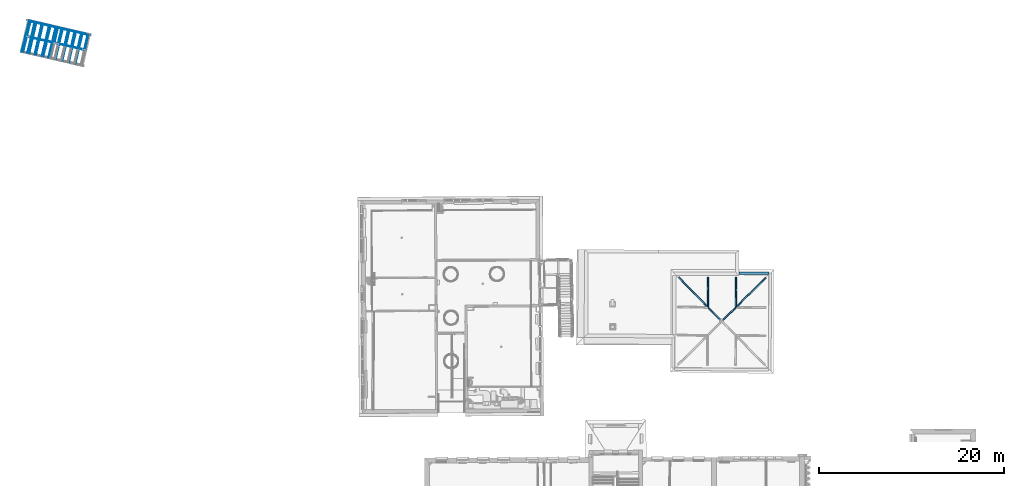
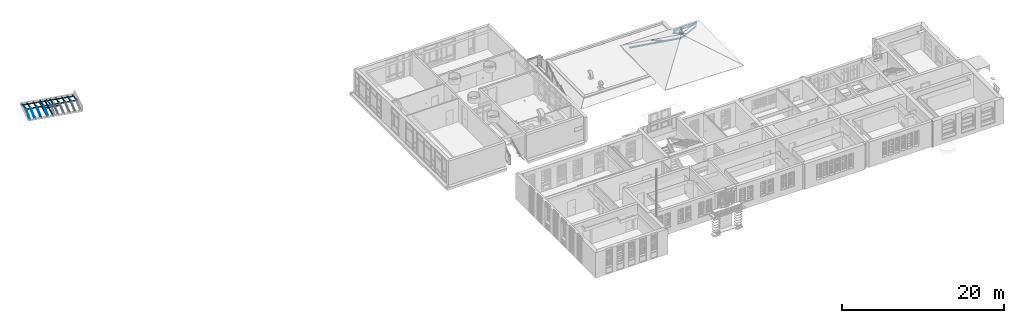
# One storey, part 6 of 158: 32 beams.
"""IFC2X3 building model written with IfcOpenShell, lengths in metres."""

from ifc_helpers import new_model, entity, si_unit, converted_unit, derived_unit, money_unit, direction, frame, frame_2d, origin_with_axes, place, context, subcontext, project, spatial, polyline, rectangle, outline, extrude, clip, halfspace, material, type_object, element, save


model = new_model("IFC2X3")

# Units and contexts
model_context = context("Model", 3, precision=1e-05, world=origin_with_axes(), true_north=direction((0.0, 1.0)))
body_context = subcontext(model_context, "Body", "Model", "MODEL_VIEW")
ifc_project = project(units=[si_unit("LENGTHUNIT", "METRE"), si_unit("AREAUNIT", "SQUARE_METRE"), si_unit("VOLUMEUNIT", "CUBIC_METRE"), converted_unit("PLANEANGLEUNIT", "DEGREE", entity("IfcPlaneAngleMeasure", 0.0174532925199), si_unit("PLANEANGLEUNIT", "RADIAN"), dimensions=[0, 0, 0, 0, 0, 0, 0]), money_unit("EUR"), converted_unit("TIMEUNIT", "Year", entity("IfcTimeMeasure", 31556926.0), si_unit("TIMEUNIT", "SECOND"), dimensions=[0, 0, 1, 0, 0, 0, 0]), si_unit("MASSUNIT", "GRAM", prefix="KILO"), si_unit("THERMODYNAMICTEMPERATUREUNIT", "DEGREE_CELSIUS"), si_unit("LUMINOUSINTENSITYUNIT", "LUMEN"), si_unit("ENERGYUNIT", "JOULE", prefix="MEGA"), derived_unit("THERMALCONDUCTANCEUNIT", [(si_unit("POWERUNIT", "WATT"), 1), (si_unit("LENGTHUNIT", "METRE"), -1), (si_unit("THERMODYNAMICTEMPERATUREUNIT", "KELVIN"), -1)]), derived_unit("SPECIFICHEATCAPACITYUNIT", [(si_unit("ENERGYUNIT", "JOULE"), 1), (si_unit("MASSUNIT", "GRAM", prefix="KILO"), -1), (si_unit("THERMODYNAMICTEMPERATUREUNIT", "KELVIN"), -1)]), derived_unit("MASSDENSITYUNIT", [(si_unit("MASSUNIT", "GRAM", prefix="KILO"), 1), (si_unit("VOLUMEUNIT", "CUBIC_METRE"), -1)])], contexts=[model_context])

# Site, building, storey
site_placement = place(None, origin_with_axes())
site = spatial("IfcSite", under=ifc_project, at=site_placement, Name="Gelände", CompositionType="ELEMENT")
building_placement = place(site_placement, origin_with_axes())
building = spatial("IfcBuilding", under=site, at=building_placement, Name="Gebäude", CompositionType="ELEMENT")
storey_placement = place(building_placement, origin_with_axes())
storey = spatial("IfcBuildingStorey", under=building, at=storey_placement, Name="ERDGESCHOSS", CompositionType="ELEMENT", Elevation=0.0)

# Beams
ifc_material_1 = material(Name="47_Holz, Bauholz")
beam_type_1 = type_object("IfcBeamType", Name="47_Holz, Bauholz 154 x 160", PredefinedType="LINTEL")
beam_1_placement = place(storey_placement, frame((-0.608152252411, 45.5321719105, 1.04301379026), z_axis=(0.0, 0.0, 1.0), x_axis=(-0.713262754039, -0.700896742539, 0.0)))
element("IfcBeam", 1, at=beam_1_placement, inside=storey, type_object=beam_type_1, material=ifc_material_1, Name="Unterzug-006", ObjectType="LINTEL", context=body_context, shape_type="Clipping", body=[
    clip(clip(extrude(rectangle(XDim=0.16039239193, YDim=0.154044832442, at=frame_2d((-0.0801961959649, -0.0770224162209), x_axis=(1.0, 0.0))), frame((0.0, -0.0855337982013, -0.0348242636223), z_axis=(0.0, 0.926178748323, 0.377084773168), x_axis=(0.0, -0.377084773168, 0.926178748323)), (0.0, 0.0, 1.0), 7.36415548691), halfspace(frame((0.0, 0.0, 0.0), z_axis=(0.0, 1.0, 0.0), x_axis=(0.0, 0.0, 1.0)), True)), halfspace(frame((0.0, 6.64945671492, 0.0), z_axis=(0.0, -1.0, 0.0), x_axis=(0.0, 0.0, -1.0)), True)),
])
beam_2_placement = place(storey_placement, frame((2.56071614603, 45.6105397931, 1.06555518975), z_axis=(0.0, 0.0, 1.0), x_axis=(-0.999964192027, 0.00846254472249, 0.0)))
element("IfcBeam", 2, at=beam_2_placement, inside=storey, type_object=beam_type_1, material=ifc_material_1, Name="Unterzug-007", ObjectType="LINTEL", context=body_context, shape_type="Clipping", body=[
    clip(clip(extrude(rectangle(XDim=0.16039239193, YDim=0.154044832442, at=frame_2d((-0.0801961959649, -0.0770224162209), x_axis=(1.0, 0.0))), frame((0.0, -0.112227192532, -0.0638946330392), z_axis=(0.0, 0.869026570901, 0.494765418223), x_axis=(0.0, -0.494765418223, 0.869026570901)), (0.0, 0.0, 1.0), 3.95708632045), halfspace(frame((0.0, 0.0, 0.0), z_axis=(0.0, 1.0, 0.0), x_axis=(0.0, 0.0, 1.0)), True)), halfspace(frame((0.0, 3.21435877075, 0.0), z_axis=(0.0, -1.0, 0.0), x_axis=(0.0, 0.0, -1.0)), True)),
])
beam_3_placement = place(storey_placement, frame((5.60980311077, 45.5847358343, 1.0665890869), z_axis=(0.0, 0.0, 1.0), x_axis=(-0.999944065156, 0.0105766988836, 0.0)))
element("IfcBeam", 3, at=beam_3_placement, inside=storey, type_object=beam_type_1, material=ifc_material_1, Name="Unterzug-008", ObjectType="LINTEL", context=body_context, shape_type="Clipping", body=[
    clip(clip(extrude(rectangle(XDim=0.16039239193, YDim=0.154044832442, at=frame_2d((-0.0801961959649, -0.0770224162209), x_axis=(1.0, 0.0))), frame((0.0, -0.112689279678, -0.0645082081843), z_axis=(0.0, 0.867863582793, 0.496802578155), x_axis=(0.0, -0.496802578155, 0.867863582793)), (0.0, 0.0, 1.0), 3.95729337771), halfspace(frame((0.0, 0.0, 0.0), z_axis=(0.0, 1.0, 0.0), x_axis=(0.0, 0.0, 1.0)), True)), halfspace(frame((0.0, 3.20901224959, 0.0), z_axis=(0.0, -1.0, 0.0), x_axis=(0.0, 0.0, -1.0)), True)),
])
beam_4_placement = place(storey_placement, frame((8.84745095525, 45.5748668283, 1.04186025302), z_axis=(0.0, 0.0, 1.0), x_axis=(-0.699126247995, 0.714998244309, 0.0)))
element("IfcBeam", 4, at=beam_4_placement, inside=storey, type_object=beam_type_1, material=ifc_material_1, Name="Unterzug-009", ObjectType="LINTEL", context=body_context, shape_type="Clipping", body=[
    clip(clip(extrude(rectangle(XDim=0.16039239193, YDim=0.154044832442, at=frame_2d((-0.0801961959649, -0.0770224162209), x_axis=(1.0, 0.0))), frame((0.0, -0.0853930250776, -0.0347002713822), z_axis=(0.0, 0.926431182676, 0.376464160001), x_axis=(0.0, -0.376464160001, 0.926431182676)), (0.0, 0.0, 1.0), 7.41739935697), halfspace(frame((0.0, 0.0, 0.0), z_axis=(0.0, 1.0, 0.0), x_axis=(0.0, 0.0, 1.0)), True)), halfspace(frame((0.0, 6.70092400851, 0.0), z_axis=(0.0, -1.0, 0.0), x_axis=(0.0, 0.0, -1.0)), True)),
])
ifc_material_2 = material(Name="05_ALLGEMEIN - TRAGENDE BAUTEILE")
beam_type_2 = type_object("IfcBeamType", Name="sims kantine 289 x 434", PredefinedType="LINTEL")
beam_5_placement = place(storey_placement, frame((9.2329401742, 45.8853873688, 0.825955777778), z_axis=(0.0, 0.0, 1.0), x_axis=(0.00563238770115, 0.999984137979, 0.0)))
element("IfcBeam", 5, at=beam_5_placement, inside=storey, type_object=beam_type_2, material=ifc_material_2, Name="Unterzug-007", ObjectType="LINTEL", context=body_context, shape_type="SweptSolid", body=[
    extrude(outline(polyline([(0.0, 0.434190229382), (0.0, 0.0), (0.26806092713, 0.0), (0.271404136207, 0.111285), (0.288909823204, 0.116581), (0.288149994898, 0.268944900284), (0.0, 0.434190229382)])), frame((0.0, 3.24758471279, 0.0), z_axis=(0.0, -1.0, 0.0), x_axis=(1.0, 0.0, 0.0)), (0.0, 0.0, 1.0), 3.24758471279),
])
beam_type_3 = type_object("IfcBeamType", Name="05_ALLGEMEIN - TRAGENDE BAUTEILE 100 x 120", PredefinedType="LINTEL")
beam_6_placement = place(storey_placement, frame((-68.7324379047, 69.4019596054, 0.170942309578), z_axis=(0.0, 0.0, 1.0), x_axis=(0.972435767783, -0.233170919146, 0.0)))
element("IfcBeam", 6, at=beam_6_placement, inside=storey, type_object=beam_type_3, material=ifc_material_2, Name="Unterzug-063", ObjectType="LINTEL", context=body_context, shape_type="Clipping", body=[
    clip(clip(extrude(rectangle(XDim=0.12, YDim=0.1, at=frame_2d((0.06, -0.05), x_axis=(1.0, 0.0))), frame((0.0, -7.56448263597e-05, 3.37180352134e-08), z_axis=(0.0, 0.999999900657, -0.000445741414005), x_axis=(0.0, 0.000445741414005, 0.999999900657)), (0.0, 0.0, 1.0), 3.40100529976), halfspace(frame((0.0, 0.0, 0.0), z_axis=(0.0, 1.0, 0.0), x_axis=(0.0, 0.0, 1.0)), True)), halfspace(frame((0.0, 3.40085367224, 0.0), z_axis=(0.0, -1.0, 0.0), x_axis=(0.0, 0.0, -1.0)), True)),
])
beam_7_placement = place(storey_placement, frame((-71.5331485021, 70.0352945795, 0.179977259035), z_axis=(0.0, 0.0, 1.0), x_axis=(0.972545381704, -0.232713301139, 0.0)))
element("IfcBeam", 7, at=beam_7_placement, inside=storey, type_object=beam_type_3, material=ifc_material_2, Name="Unterzug-063", ObjectType="LINTEL", context=body_context, shape_type="Clipping", body=[
    clip(clip(extrude(rectangle(XDim=0.12, YDim=0.1, at=frame_2d((0.06, -0.05), x_axis=(1.0, 0.0))), frame((0.0, -0.00121243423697, 8.66226015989e-06), z_axis=(0.0, 0.999974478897, -0.00714433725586), x_axis=(0.0, 0.00714433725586, 0.999974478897)), (0.0, 0.0, 1.0), 3.42242116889), halfspace(frame((0.0, 0.0, 0.0), z_axis=(0.0, 1.0, 0.0), x_axis=(0.0, 0.0, 1.0)), True)), halfspace(frame((0.0, 3.41990895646, 0.0), z_axis=(0.0, -1.0, 0.0), x_axis=(0.0, 0.0, -1.0)), True)),
])
beam_8_placement = place(storey_placement, frame((-68.6720060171, 72.8797282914, 0.165300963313), z_axis=(0.0, 0.0, 1.0), x_axis=(-0.973586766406, 0.228317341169, 0.0)))
element("IfcBeam", 8, at=beam_8_placement, inside=storey, type_object=beam_type_3, material=ifc_material_2, Name="Unterzug-064", ObjectType="LINTEL", context=body_context, shape_type="Clipping", body=[
    clip(clip(extrude(rectangle(XDim=0.12, YDim=0.1, at=frame_2d((0.06, 0.05), x_axis=(1.0, 0.0))), frame((0.0, -0.000584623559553, -2.01399764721e-06), z_axis=(0.0, 0.99999406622, 0.00344492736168), x_axis=(0.0, -0.00344492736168, 0.99999406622)), (0.0, 0.0, 1.0), 3.40801357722), halfspace(frame((0.0, 0.0, 0.0), z_axis=(0.0, 1.0, 0.0), x_axis=(0.0, 0.0, 1.0)), True)), halfspace(frame((0.0, 3.4068241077, 0.0), z_axis=(0.0, -1.0, 0.0), x_axis=(0.0, 0.0, -1.0)), True)),
])
beam_9_placement = place(storey_placement, frame((-67.9767236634, 72.6297140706, 0.165614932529), z_axis=(0.0, 0.0, 1.0), x_axis=(-0.973586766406, 0.228317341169, 0.0)))
element("IfcBeam", 9, at=beam_9_placement, inside=storey, type_object=beam_type_3, material=ifc_material_2, Name="Unterzug-064", ObjectType="LINTEL", context=body_context, shape_type="Clipping", body=[
    clip(clip(extrude(rectangle(XDim=0.12, YDim=0.1, at=frame_2d((0.06, 0.05), x_axis=(1.0, 0.0))), frame((0.0, -0.000584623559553, -2.01399764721e-06), z_axis=(0.0, 0.99999406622, 0.00344492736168), x_axis=(0.0, -0.00344492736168, 0.99999406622)), (0.0, 0.0, 1.0), 3.31687400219), halfspace(frame((0.0, 0.0, 0.0), z_axis=(0.0, 1.0, 0.0), x_axis=(0.0, 0.0, 1.0)), True)), halfspace(frame((0.0, 3.31568507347, 0.0), z_axis=(0.0, -1.0, 0.0), x_axis=(0.0, 0.0, -1.0)), True)),
])
beam_10_placement = place(storey_placement, frame((-69.3868132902, 73.0464846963, 0.16528159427), z_axis=(0.0, 0.0, 1.0), x_axis=(-0.973586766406, 0.228317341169, 0.0)))
element("IfcBeam", 10, at=beam_10_placement, inside=storey, type_object=beam_type_3, material=ifc_material_2, Name="Unterzug-064", ObjectType="LINTEL", context=body_context, shape_type="Clipping", body=[
    clip(clip(extrude(rectangle(XDim=0.12, YDim=0.1, at=frame_2d((0.06, 0.05), x_axis=(1.0, 0.0))), frame((0.0, -0.000584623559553, -2.01399764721e-06), z_axis=(0.0, 0.99999406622, 0.00344492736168), x_axis=(0.0, -0.00344492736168, 0.99999406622)), (0.0, 0.0, 1.0), 3.41363605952), halfspace(frame((0.0, 0.0, 0.0), z_axis=(0.0, 1.0, 0.0), x_axis=(0.0, 0.0, 1.0)), True)), halfspace(frame((0.0, 3.41244655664, 0.0), z_axis=(0.0, -1.0, 0.0), x_axis=(0.0, 0.0, -1.0)), True)),
])
beam_11_placement = place(storey_placement, frame((-70.1016244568, 73.2132244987, 0.165262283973), z_axis=(0.0, 0.0, 1.0), x_axis=(-0.973586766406, 0.228317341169, 0.0)))
element("IfcBeam", 11, at=beam_11_placement, inside=storey, type_object=beam_type_3, material=ifc_material_2, Name="Unterzug-064", ObjectType="LINTEL", context=body_context, shape_type="Clipping", body=[
    clip(clip(extrude(rectangle(XDim=0.12, YDim=0.1, at=frame_2d((0.06, 0.05), x_axis=(1.0, 0.0))), frame((0.0, -0.000584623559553, -2.01399764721e-06), z_axis=(0.0, 0.99999406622, 0.00344492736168), x_axis=(0.0, -0.00344492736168, 0.99999406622)), (0.0, 0.0, 1.0), 3.41924148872), halfspace(frame((0.0, 0.0, 0.0), z_axis=(0.0, 1.0, 0.0), x_axis=(0.0, 0.0, 1.0)), True)), halfspace(frame((0.0, 3.41805195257, 0.0), z_axis=(0.0, -1.0, 0.0), x_axis=(0.0, 0.0, -1.0)), True)),
])
beam_12_placement = place(storey_placement, frame((-67.2423867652, 72.5462355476, 0.165339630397), z_axis=(0.0, 0.0, 1.0), x_axis=(-0.973586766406, 0.228317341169, 0.0)))
element("IfcBeam", 12, at=beam_12_placement, inside=storey, type_object=beam_type_3, material=ifc_material_2, Name="Unterzug-064", ObjectType="LINTEL", context=body_context, shape_type="Clipping", body=[
    clip(clip(extrude(rectangle(XDim=0.12, YDim=0.1, at=frame_2d((0.06, 0.05), x_axis=(1.0, 0.0))), frame((0.0, -0.000584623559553, -2.01399764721e-06), z_axis=(0.0, 0.99999406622, 0.00344492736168), x_axis=(0.0, -0.00344492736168, 0.99999406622)), (0.0, 0.0, 1.0), 3.3967892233), halfspace(frame((0.0, 0.0, 0.0), z_axis=(0.0, 1.0, 0.0), x_axis=(0.0, 0.0, 1.0)), True)), halfspace(frame((0.0, 3.39559982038, 0.0), z_axis=(0.0, -1.0, 0.0), x_axis=(0.0, 0.0, -1.0)), True)),
])
beam_13_placement = place(storey_placement, frame((-66.6189719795, 72.4008961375, 0.167021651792), z_axis=(0.0, 0.0, 1.0), x_axis=(-0.973172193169, 0.230077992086, 0.0)))
element("IfcBeam", 13, at=beam_13_placement, inside=storey, type_object=beam_type_3, material=ifc_material_2, Name="Unterzug-065", ObjectType="LINTEL", context=body_context, shape_type="Clipping", body=[
    clip(clip(extrude(rectangle(XDim=0.12, YDim=0.1, at=frame_2d((0.06, -0.05), x_axis=(1.0, 0.0))), frame((0.0, -0.000803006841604, -3.79968075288e-06), z_axis=(0.0, 0.999988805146, 0.00473176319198), x_axis=(0.0, -0.00473176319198, 0.999988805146)), (0.0, 0.0, 1.0), 3.39304118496), halfspace(frame((0.0, 0.0, 0.0), z_axis=(0.0, 1.0, 0.0), x_axis=(0.0, 0.0, 1.0)), True)), halfspace(frame((0.0, 3.39139718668, 0.0), z_axis=(0.0, -1.0, 0.0), x_axis=(0.0, 0.0, -1.0)), True)),
])
beam_14_placement = place(storey_placement, frame((-66.6836256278, 68.9302758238, 0.1742655), z_axis=(0.0, 0.0, 1.0), x_axis=(0.973686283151, -0.227892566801, 0.0)))
element("IfcBeam", 14, at=beam_14_placement, inside=storey, type_object=beam_type_3, material=ifc_material_2, Name="Unterzug-066", ObjectType="LINTEL", context=body_context, shape_type="Clipping", body=[
    clip(clip(extrude(rectangle(XDim=0.12, YDim=0.1, at=frame_2d((0.06, 0.05), x_axis=(1.0, 0.0))), frame((0.0, -0.000501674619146, 1.48302992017e-06), z_axis=(0.0, 0.999995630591, -0.00295614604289), x_axis=(0.0, 0.00295614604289, 0.999995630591)), (0.0, 0.0, 1.0), 3.39548980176), halfspace(frame((0.0, 0.0, 0.0), z_axis=(0.0, 1.0, 0.0), x_axis=(0.0, 0.0, 1.0)), True)), halfspace(frame((0.0, 3.39447161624, 0.0), z_axis=(0.0, -1.0, 0.0), x_axis=(0.0, 0.0, -1.0)), True)),
])
beam_15_placement = place(storey_placement, frame((-65.1953929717, 72.068867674, 0.165564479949), z_axis=(0.0, 0.0, 1.0), x_axis=(-0.97323458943, 0.229813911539, 0.0)))
element("IfcBeam", 15, at=beam_15_placement, inside=storey, type_object=beam_type_3, material=ifc_material_2, Name="Unterzug-067", ObjectType="LINTEL", context=body_context, shape_type="Clipping", body=[
    clip(clip(extrude(rectangle(XDim=0.12, YDim=0.1, at=frame_2d((0.06, -0.05), x_axis=(1.0, 0.0))), frame((0.0, -0.000419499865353, -1.03697607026e-06), z_axis=(0.0, 0.999996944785, 0.00247192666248), x_axis=(0.0, -0.00247192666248, 0.999996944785)), (0.0, 0.0, 1.0), 3.38889261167), halfspace(frame((0.0, 0.0, 0.0), z_axis=(0.0, 1.0, 0.0), x_axis=(0.0, 0.0, 1.0)), True)), halfspace(frame((0.0, 3.38804325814, 0.0), z_axis=(0.0, -1.0, 0.0), x_axis=(0.0, 0.0, -1.0)), True)),
])
beam_type_4 = type_object("IfcBeamType", Name="05_ALLGEMEIN - TRAGENDE BAUTEILE 80 x 98", PredefinedType="LINTEL")
beam_16_placement = place(storey_placement, frame((-67.7914807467, 72.5922640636, 0.28535605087), z_axis=(0.0, 0.0, 1.0), x_axis=(-0.974696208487, 0.223533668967, 0.0)))
element("IfcBeam", 16, at=beam_16_placement, inside=storey, type_object=beam_type_4, material=ifc_material_2, Name="Unterzug-069", ObjectType="LINTEL", context=body_context, shape_type="Clipping", body=[
    clip(clip(extrude(rectangle(XDim=0.0981735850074, YDim=0.0799267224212, at=frame_2d((0.0490867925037, 0.0399633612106), x_axis=(1.0, 0.0))), frame((0.0, -0.031373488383, -0.00727775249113), z_axis=(0.0, 0.974133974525, 0.225971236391), x_axis=(0.0, -0.225971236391, 0.974133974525)), (0.0, 0.0, 1.0), 1.7536059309), halfspace(frame((0.0, 0.0, 0.0), z_axis=(0.0, 1.0, 0.0), x_axis=(0.0, 0.0, 1.0)), True)), halfspace(frame((0.0, 1.64550013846, 0.0), z_axis=(0.0, -1.0, 0.0), x_axis=(0.0, 0.0, -1.0)), True)),
])
beam_17_placement = place(storey_placement, frame((-71.2469087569, 71.7029379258, 0.674700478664), z_axis=(0.0, 0.0, 1.0), x_axis=(0.97128394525, -0.237923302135, 0.0)))
element("IfcBeam", 17, at=beam_17_placement, inside=storey, type_object=beam_type_4, material=ifc_material_2, Name="Unterzug-069", ObjectType="LINTEL", context=body_context, shape_type="Clipping", body=[
    clip(clip(extrude(rectangle(XDim=0.0981735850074, YDim=0.0799267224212, at=frame_2d((0.0490867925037, -0.0399633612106), x_axis=(1.0, 0.0))), frame((0.0, -0.0328481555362, 0.0079987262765), z_axis=(0.0, 0.971608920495, -0.236592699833), x_axis=(0.0, 0.236592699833, 0.971608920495)), (0.0, 0.0, 1.0), 1.76761700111), halfspace(frame((0.0, 0.0, 0.0), z_axis=(0.0, 1.0, 0.0), x_axis=(0.0, 0.0, 1.0)), True)), halfspace(frame((0.0, 1.65173613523, 0.0), z_axis=(0.0, -1.0, 0.0), x_axis=(0.0, 0.0, -1.0)), True)),
])
beam_18_placement = place(storey_placement, frame((-70.6437932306, 71.557488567, 0.672353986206), z_axis=(0.0, 0.0, 1.0), x_axis=(0.974688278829, -0.223568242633, 0.0)))
element("IfcBeam", 18, at=beam_18_placement, inside=storey, type_object=beam_type_4, material=ifc_material_2, Name="Unterzug-070", ObjectType="LINTEL", context=body_context, shape_type="Clipping", body=[
    clip(clip(extrude(rectangle(XDim=0.0981735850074, YDim=0.0799267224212, at=frame_2d((0.0490867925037, -0.0399633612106), x_axis=(1.0, 0.0))), frame((0.0, -0.0313627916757, 0.00727265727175), z_axis=(0.0, 0.974151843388, -0.2258941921), x_axis=(0.0, 0.2258941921, 0.974151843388)), (0.0, 0.0, 1.0), 1.7640248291), halfspace(frame((0.0, 0.0, 0.0), z_axis=(0.0, 1.0, 0.0), x_axis=(0.0, 0.0, 1.0)), True)), halfspace(frame((0.0, 1.6557024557, 0.0), z_axis=(0.0, -1.0, 0.0), x_axis=(0.0, 0.0, -1.0)), True)),
])
beam_19_placement = place(storey_placement, frame((-69.3517422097, 69.5420051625, 0.280831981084), z_axis=(0.0, 0.0, 1.0), x_axis=(0.971388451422, -0.23749626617, 0.0)))
element("IfcBeam", 19, at=beam_19_placement, inside=storey, type_object=beam_type_4, material=ifc_material_2, Name="Unterzug-071", ObjectType="LINTEL", context=body_context, shape_type="Clipping", body=[
    clip(clip(extrude(rectangle(XDim=0.0981735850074, YDim=0.0799267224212, at=frame_2d((0.0490867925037, -0.0399633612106), x_axis=(1.0, 0.0))), frame((0.0, -0.0320036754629, -0.00758134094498), z_axis=(0.0, 0.973069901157, 0.23051023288), x_axis=(0.0, -0.23051023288, 0.973069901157)), (0.0, 0.0, 1.0), 1.78723270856), halfspace(frame((0.0, 0.0, 0.0), z_axis=(0.0, 1.0, 0.0), x_axis=(0.0, 0.0, 1.0)), True)), halfspace(frame((0.0, 1.67509500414, 0.0), z_axis=(0.0, -1.0, 0.0), x_axis=(0.0, 0.0, -1.0)), True)),
])
beam_20_placement = place(storey_placement, frame((-69.5714089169, 73.0074730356, 0.285646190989), z_axis=(0.0, 0.0, 1.0), x_axis=(-0.972699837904, 0.232066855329, 0.0)))
element("IfcBeam", 20, at=beam_20_placement, inside=storey, type_object=beam_type_4, material=ifc_material_2, Name="Unterzug-071", ObjectType="LINTEL", context=body_context, shape_type="Clipping", body=[
    clip(clip(extrude(rectangle(XDim=0.0981735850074, YDim=0.0799267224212, at=frame_2d((0.0490867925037, -0.0399633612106), x_axis=(1.0, 0.0))), frame((0.0, -0.0312399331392, -0.00721427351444), z_axis=(0.0, 0.97435661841, 0.225009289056), x_axis=(0.0, -0.225009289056, 0.97435661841)), (0.0, 0.0, 1.0), 1.75991001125), halfspace(frame((0.0, 0.0, 0.0), z_axis=(0.0, 1.0, 0.0), x_axis=(0.0, 0.0, 1.0)), True)), halfspace(frame((0.0, 1.65230010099, 0.0), z_axis=(0.0, -1.0, 0.0), x_axis=(0.0, 0.0, -1.0)), True)),
])
beam_21_placement = place(storey_placement, frame((-66.7168280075, 72.3415767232, 0.281978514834), z_axis=(0.0, 0.0, 1.0), x_axis=(-0.973377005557, 0.229209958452, 0.0)))
element("IfcBeam", 21, at=beam_21_placement, inside=storey, type_object=beam_type_4, material=ifc_material_2, Name="Unterzug-073", ObjectType="LINTEL", context=body_context, shape_type="Clipping", body=[
    clip(clip(extrude(rectangle(XDim=0.0981735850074, YDim=0.0799267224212, at=frame_2d((0.0490867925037, -0.0399633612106), x_axis=(1.0, 0.0))), frame((0.0, -0.0318280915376, -0.00749607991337), z_axis=(0.0, 0.973368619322, 0.229245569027), x_axis=(0.0, -0.229245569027, 0.973368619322)), (0.0, 0.0, 1.0), 1.76073575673), halfspace(frame((0.0, 0.0, 0.0), z_axis=(0.0, 1.0, 0.0), x_axis=(0.0, 0.0, 1.0)), True)), halfspace(frame((0.0, 1.65018874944, 0.0), z_axis=(0.0, -1.0, 0.0), x_axis=(0.0, 0.0, -1.0)), True)),
])
beam_22_placement = place(storey_placement, frame((-68.6542252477, 72.7935189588, 0.276020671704), z_axis=(0.0, 0.0, 1.0), x_axis=(-0.968573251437, 0.248728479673, 0.0)))
element("IfcBeam", 22, at=beam_22_placement, inside=storey, type_object=beam_type_4, material=ifc_material_2, Name="Unterzug-073", ObjectType="LINTEL", context=body_context, shape_type="Clipping", body=[
    clip(clip(extrude(rectangle(XDim=0.0981735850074, YDim=0.0799267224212, at=frame_2d((0.0490867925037, -0.0399633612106), x_axis=(1.0, 0.0))), frame((0.0, -0.0322574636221, -0.007705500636), z_axis=(0.0, 0.972635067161, 0.232338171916), x_axis=(0.0, -0.232338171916, 0.972635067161)), (0.0, 0.0, 1.0), 1.76540682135), halfspace(frame((0.0, 0.0, 0.0), z_axis=(0.0, 1.0, 0.0), x_axis=(0.0, 0.0, 1.0)), True)), halfspace(frame((0.0, 1.65258165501, 0.0), z_axis=(0.0, -1.0, 0.0), x_axis=(0.0, 0.0, -1.0)), True)),
])
beam_23_placement = place(storey_placement, frame((-66.0059884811, 72.175757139, 0.283251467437), z_axis=(0.0, 0.0, 1.0), x_axis=(-0.973377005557, 0.229209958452, 0.0)))
element("IfcBeam", 23, at=beam_23_placement, inside=storey, type_object=beam_type_4, material=ifc_material_2, Name="Unterzug-073", ObjectType="LINTEL", context=body_context, shape_type="Clipping", body=[
    clip(clip(extrude(rectangle(XDim=0.0981735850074, YDim=0.0799267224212, at=frame_2d((0.0490867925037, -0.0399633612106), x_axis=(1.0, 0.0))), frame((0.0, -0.0318280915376, -0.00749607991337), z_axis=(0.0, 0.973368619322, 0.229245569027), x_axis=(0.0, -0.229245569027, 0.973368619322)), (0.0, 0.0, 1.0), 1.75518296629), halfspace(frame((0.0, 0.0, 0.0), z_axis=(0.0, 1.0, 0.0), x_axis=(0.0, 0.0, 1.0)), True)), halfspace(frame((0.0, 1.64478383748, 0.0), z_axis=(0.0, -1.0, 0.0), x_axis=(0.0, 0.0, -1.0)), True)),
])
beam_24_placement = place(storey_placement, frame((-67.427667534, 72.5073963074, 0.280705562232), z_axis=(0.0, 0.0, 1.0), x_axis=(-0.973377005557, 0.229209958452, 0.0)))
element("IfcBeam", 24, at=beam_24_placement, inside=storey, type_object=beam_type_4, material=ifc_material_2, Name="Unterzug-073", ObjectType="LINTEL", context=body_context, shape_type="Clipping", body=[
    clip(clip(extrude(rectangle(XDim=0.0981735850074, YDim=0.0799267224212, at=frame_2d((0.0490867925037, -0.0399633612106), x_axis=(1.0, 0.0))), frame((0.0, -0.0318280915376, -0.00749607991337), z_axis=(0.0, 0.973368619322, 0.229245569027), x_axis=(0.0, -0.229245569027, 0.973368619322)), (0.0, 0.0, 1.0), 1.76628854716), halfspace(frame((0.0, 0.0, 0.0), z_axis=(0.0, 1.0, 0.0), x_axis=(0.0, 0.0, 1.0)), True)), halfspace(frame((0.0, 1.6555936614, 0.0), z_axis=(0.0, -1.0, 0.0), x_axis=(0.0, 0.0, -1.0)), True)),
])
beam_25_placement = place(storey_placement, frame((-69.9550729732, 71.400330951, 0.669922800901), z_axis=(0.0, 0.0, 1.0), x_axis=(-0.975168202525, 0.22146552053, 0.0)))
element("IfcBeam", 25, at=beam_25_placement, inside=storey, type_object=beam_type_4, material=ifc_material_2, Name="Unterzug-075", ObjectType="LINTEL", context=body_context, shape_type="Clipping", body=[
    clip(clip(extrude(rectangle(XDim=0.0981735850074, YDim=0.0799267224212, at=frame_2d((0.0490867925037, -0.0399633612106), x_axis=(1.0, 0.0))), frame((0.0, -0.0296840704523, 0.00649676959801), z_axis=(0.0, 0.976876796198, -0.213803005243), x_axis=(0.0, 0.213803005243, 0.976876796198)), (0.0, 0.0, 1.0), 1.78001478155), halfspace(frame((0.0, 0.0, 0.0), z_axis=(0.0, 1.0, 0.0), x_axis=(0.0, 0.0, 1.0)), True)), halfspace(frame((0.0, 1.67948699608, 0.0), z_axis=(0.0, -1.0, 0.0), x_axis=(0.0, 0.0, -1.0)), True)),
])
beam_26_placement = place(storey_placement, frame((-70.6437916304, 71.5574882, 0.675515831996), z_axis=(0.0, 0.0, 1.0), x_axis=(-0.971826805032, 0.235696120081, 0.0)))
element("IfcBeam", 26, at=beam_26_placement, inside=storey, type_object=beam_type_4, material=ifc_material_2, Name="Unterzug-076", ObjectType="LINTEL", context=body_context, shape_type="Clipping", body=[
    clip(clip(extrude(rectangle(XDim=0.0981735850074, YDim=0.0799267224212, at=frame_2d((0.0490867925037, 0.0399633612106), x_axis=(1.0, 0.0))), frame((0.0, -0.0302988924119, 0.00677547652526), z_axis=(0.0, 0.975897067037, -0.218231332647), x_axis=(0.0, 0.218231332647, 0.975897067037)), (0.0, 0.0, 1.0), 1.78468310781), halfspace(frame((0.0, 0.0, 0.0), z_axis=(0.0, 1.0, 0.0), x_axis=(0.0, 0.0, 1.0)), True)), halfspace(frame((0.0, 1.68106922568, 0.0), z_axis=(0.0, -1.0, 0.0), x_axis=(0.0, 0.0, -1.0)), True)),
])
beam_27_placement = place(storey_placement, frame((-65.6653522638, 70.4086626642, 0.675958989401), z_axis=(0.0, 0.0, 1.0), x_axis=(0.973943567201, -0.226790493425, 0.0)))
element("IfcBeam", 27, at=beam_27_placement, inside=storey, type_object=beam_type_4, material=ifc_material_2, Name="Unterzug-076", ObjectType="LINTEL", context=body_context, shape_type="Clipping", body=[
    clip(clip(extrude(rectangle(XDim=0.0981735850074, YDim=0.0799267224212, at=frame_2d((0.0490867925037, 0.0399633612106), x_axis=(1.0, 0.0))), frame((0.0, -0.032416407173, 0.00778381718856), z_axis=(0.0, 0.972360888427, -0.233482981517), x_axis=(0.0, 0.233482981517, 0.972360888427)), (0.0, 0.0, 1.0), 1.75690094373), halfspace(frame((0.0, 0.0, 0.0), z_axis=(0.0, 1.0, 0.0), x_axis=(0.0, 0.0, 1.0)), True)), halfspace(frame((0.0, 1.64350894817, 0.0), z_axis=(0.0, -1.0, 0.0), x_axis=(0.0, 0.0, -1.0)), True)),
])
beam_28_placement = place(storey_placement, frame((-64.5963366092, 71.8469235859, 0.283065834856), z_axis=(0.0, 0.0, 1.0), x_axis=(-0.975875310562, 0.218328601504, 0.0)))
element("IfcBeam", 28, at=beam_28_placement, inside=storey, type_object=beam_type_4, material=ifc_material_2, Name="Unterzug-077", ObjectType="LINTEL", context=body_context, shape_type="Clipping", body=[
    clip(clip(extrude(rectangle(XDim=0.0981735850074, YDim=0.0799267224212, at=frame_2d((0.0490867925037, -0.0399633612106), x_axis=(1.0, 0.0))), frame((0.0, -0.0321639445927, -0.00765962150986), z_axis=(0.0, 0.972795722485, 0.231664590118), x_axis=(0.0, -0.231664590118, 0.972795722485)), (0.0, 0.0, 1.0), 1.75728468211), halfspace(frame((0.0, 0.0, 0.0), z_axis=(0.0, 1.0, 0.0), x_axis=(0.0, 0.0, 1.0)), True)), halfspace(frame((0.0, 1.64515113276, 0.0), z_axis=(0.0, -1.0, 0.0), x_axis=(0.0, 0.0, -1.0)), True)),
])
beam_29_placement = place(storey_placement, frame((-71.6501041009, 70.0617421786, 0.314957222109), z_axis=(0.0, 0.0, 1.0), x_axis=(0.970556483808, -0.24087364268, 0.0)))
element("IfcBeam", 29, at=beam_29_placement, inside=storey, type_object=beam_type_4, material=ifc_material_2, Name="Unterzug-077", ObjectType="LINTEL", context=body_context, shape_type="Clipping", body=[
    clip(clip(extrude(rectangle(XDim=0.0981735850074, YDim=0.0799267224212, at=frame_2d((0.0490867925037, -0.0399633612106), x_axis=(1.0, 0.0))), frame((0.0, -0.0293779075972, -0.00636031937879), z_axis=(0.0, 0.977356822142, 0.211597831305), x_axis=(0.0, -0.211597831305, 0.977356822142)), (0.0, 0.0, 1.0), 1.79099559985), halfspace(frame((0.0, 0.0, 0.0), z_axis=(0.0, 1.0, 0.0), x_axis=(0.0, 0.0, 1.0)), True)), halfspace(frame((0.0, 1.69168595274, 0.0), z_axis=(0.0, -1.0, 0.0), x_axis=(0.0, 0.0, -1.0)), True)),
])
beam_30_placement = place(storey_placement, frame((-71.3924219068, 71.6899877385, 0.583033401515), z_axis=(0.0, 0.0, 1.0), x_axis=(-0.224770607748, -0.974411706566, 0.0)))
element("IfcBeam", 30, at=beam_30_placement, inside=storey, type_object=beam_type_4, material=ifc_material_2, Name="Unterzug-079", ObjectType="LINTEL", context=body_context, shape_type="Clipping", body=[
    clip(clip(extrude(rectangle(XDim=0.0981735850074, YDim=0.0799267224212, at=frame_2d((0.0490867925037, -0.0399633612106), x_axis=(1.0, 0.0))), frame((0.0, -0.0003871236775, -1.07942260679e-06), z_axis=(0.0, 0.999996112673, 0.00278830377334), x_axis=(0.0, -0.00278830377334, 0.999996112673)), (0.0, 0.0, 1.0), 6.79295064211), halfspace(frame((0.0, 0.0, 0.0), z_axis=(0.0, 1.0, 0.0), x_axis=(0.0, 0.0, 1.0)), True)), halfspace(frame((0.0, 6.79214998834, 0.0), z_axis=(0.0, -1.0, 0.0), x_axis=(0.0, 0.0, -1.0)), True)),
])
beam_31_placement = place(storey_placement, frame((-71.0010786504, 73.340976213, 0.183439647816), z_axis=(0.0, 0.0, 1.0), x_axis=(-0.227173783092, -0.973854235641, 0.0)))
element("IfcBeam", 31, at=beam_31_placement, inside=storey, type_object=beam_type_4, material=ifc_material_2, Name="Unterzug-079", ObjectType="LINTEL", context=body_context, shape_type="Clipping", body=[
    clip(clip(extrude(rectangle(XDim=0.0981735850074, YDim=0.0799267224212, at=frame_2d((-0.0490867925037, -0.0399633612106), x_axis=(1.0, 0.0))), frame((0.0, -0.000134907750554, 1.31088428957e-07), z_axis=(0.0, 0.99999952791, -0.000971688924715), x_axis=(0.0, 0.000971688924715, 0.99999952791)), (0.0, 0.0, 1.0), 6.78624292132), halfspace(frame((0.0, 0.0, 0.0), z_axis=(0.0, 1.0, 0.0), x_axis=(0.0, 0.0, 1.0)), True)), halfspace(frame((0.0, 6.7859699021, 0.0), z_axis=(0.0, -1.0, 0.0), x_axis=(0.0, 0.0, -1.0)), True)),
])
beam_32_placement = place(storey_placement, frame((-66.9753434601, 70.6667258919, 0.300650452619), z_axis=(0.0, 0.0, 1.0), x_axis=(0.230874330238, 0.972983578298, 0.0)))
element("IfcBeam", 32, at=beam_32_placement, inside=storey, type_object=beam_type_4, material=ifc_material_2, Name="Unterzug-080", ObjectType="LINTEL", context=body_context, shape_type="Clipping", body=[
    clip(clip(extrude(rectangle(XDim=0.0981735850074, YDim=0.0799267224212, at=frame_2d((0.0490867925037, 0.0399633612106), x_axis=(1.0, 0.0))), frame((0.0, -0.0018071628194, 2.35245709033e-05), z_axis=(0.0, 0.999915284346, -0.0130163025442), x_axis=(0.0, 0.0130163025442, 0.999915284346)), (0.0, 0.0, 1.0), 2.19605509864), halfspace(frame((0.0, 0.0, 0.0), z_axis=(0.0, 1.0, 0.0), x_axis=(0.0, 0.0, 1.0)), True)), halfspace(frame((0.0, 2.19225473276, 0.0), z_axis=(0.0, -1.0, 0.0), x_axis=(0.0, 0.0, -1.0)), True)),
])

save(model, "model.ifc")
